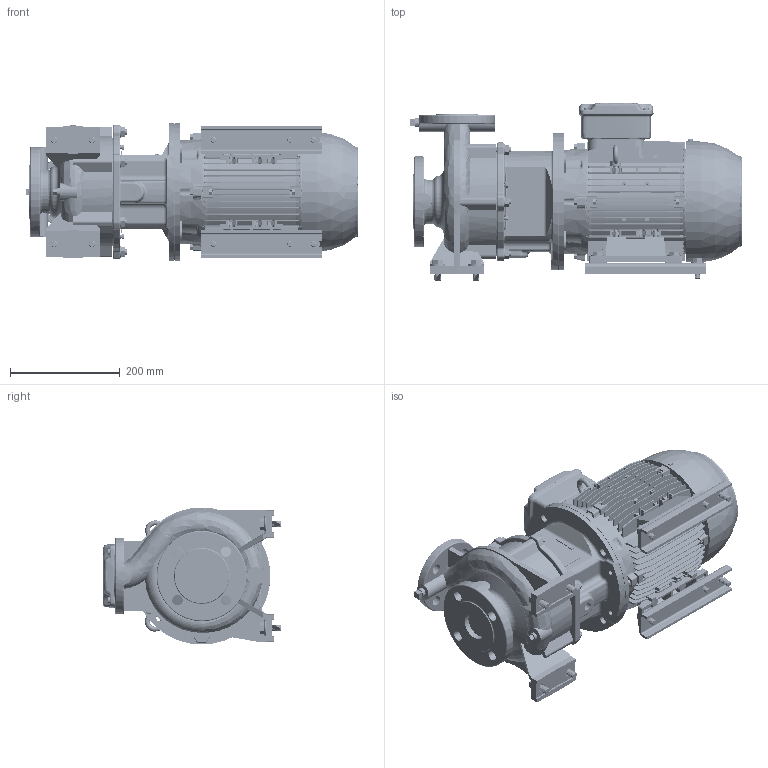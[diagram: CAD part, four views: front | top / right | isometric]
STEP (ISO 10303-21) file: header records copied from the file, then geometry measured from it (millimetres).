
FILE_DESCRIPTION (( 'STEP AP214' ), '1' );
FILE_NAME ('GSD2 32-160_4.0_(112M)_W21.STEP', '2026-07-02T04:56:03', ( '' ), ( '' ), 'SwSTEP 2.0', 'SolidWorks 2024', '' );
FILE_SCHEMA (( 'AUTOMOTIVE_DESIGN' ));
Length unit declared in the file: millimetre
Products named in the file (8): Parametric bolt_SFT-A299B; 112M ALIE3_W21T_B35; Parametric Flat Washer_M10; Parametric bolt_SFT-A253B; 140 x 20 - 271472024; GSD2  32-160_4.0_(112M)_W21; 32-160-112M; Parametric Flat Washer_M12
Assembly tree (24 placements, depth 2):
  GSD2  32-160_4.0_(112M)_W21
    32-160-112M
    112M ALIE3_W21T_B35
    140 x 20 - 271472024  x2
    Parametric bolt_SFT-A299B  x4
    Parametric bolt_SFT-A253B  x6
    Parametric Flat Washer_M10  x6
    Parametric Flat Washer_M12  x4
Bounding box: 605.75 x 324.5 x 250 mm (x, y, z)
Volume: 17393694.6 mm3; surface area: 1414656.7 mm2
Topology: 49 solids, 51 shells, 5158 faces, 13815 edges, 9030 vertices
Faces by surface type: plane 2671, cylinder 1219, bspline 493, torus 387, cone 377, sphere 11
Entity records: 205147 total; most frequent: CARTESIAN_POINT 93124, ORIENTED_EDGE 25114, DIRECTION 20372, EDGE_CURVE 12557, VERTEX_POINT 8217, LINE 7046, VECTOR 7046, AXIS2_PLACEMENT_3D 6663
